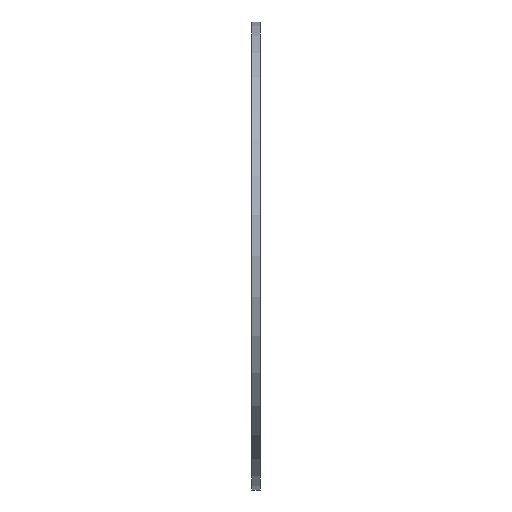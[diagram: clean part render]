
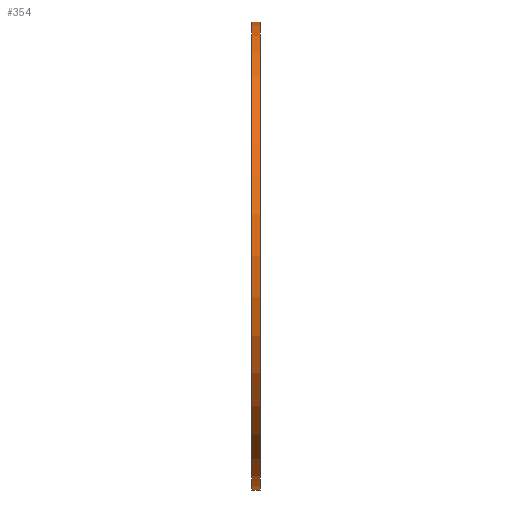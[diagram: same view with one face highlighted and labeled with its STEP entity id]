
A CAD part, left-side view. The second image highlights one B-rep face of the part: STEP entity #354.
In plain terms, the highlighted cylindrical face has radius 204.923 mm (diameter 409.847 mm), a partial arc.
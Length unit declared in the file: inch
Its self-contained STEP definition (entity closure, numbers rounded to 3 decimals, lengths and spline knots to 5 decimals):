
#17 = VERTEX_POINT ( 'NONE', #257 ) ;
#36 = ORIENTED_EDGE ( 'NONE', *, *, #172, .T. ) ;
#48 = DIRECTION ( 'NONE',  ( 0., -1., 0. ) ) ;
#64 = LINE ( 'NONE', #747, #114 ) ;
#71 = DIRECTION ( 'NONE',  ( 0., -1., 0. ) ) ;
#86 = DIRECTION ( 'NONE',  ( 0., -1., 0. ) ) ;
#94 = DIRECTION ( 'NONE',  ( 0., 1., 0. ) ) ;
#114 = VECTOR ( 'NONE', #48, 39.37008 ) ;
#143 = CARTESIAN_POINT ( 'NONE',  ( 8.19856, 0.3, -8.18591 ) ) ;
#172 = EDGE_CURVE ( 'NONE', #348, #736, #586, .T. ) ;
#190 = CYLINDRICAL_SURFACE ( 'NONE', #253, 8.06785 ) ;
#195 = CARTESIAN_POINT ( 'NONE',  ( 8.19856, 0., -8.18591 ) ) ;
#213 = ORIENTED_EDGE ( 'NONE', *, *, #749, .F. ) ;
#226 = CIRCLE ( 'NONE', #392, 8.06785 ) ;
#232 = ORIENTED_EDGE ( 'NONE', *, *, #477, .F. ) ;
#245 = DIRECTION ( 'NONE',  ( 0., 0., 1. ) ) ;
#253 = AXIS2_PLACEMENT_3D ( 'NONE', #143, #86, #488 ) ;
#257 = CARTESIAN_POINT ( 'NONE',  ( 8.19856, 0.3, -0.11806 ) ) ;
#259 = CARTESIAN_POINT ( 'NONE',  ( 8.19856, 0., -16.25375 ) ) ;
#271 = LINE ( 'NONE', #412, #502 ) ;
#315 = ORIENTED_EDGE ( 'NONE', *, *, #638, .T. ) ;
#324 = FACE_OUTER_BOUND ( 'NONE', #527, .T. ) ;
#346 = CARTESIAN_POINT ( 'NONE',  ( 8.19856, 0., -0.11806 ) ) ;
#348 = VERTEX_POINT ( 'NONE', #259 ) ;
#354 = ADVANCED_FACE ( 'NONE', ( #324 ), #190, .T. ) ;
#386 = VERTEX_POINT ( 'NONE', #723 ) ;
#392 = AXIS2_PLACEMENT_3D ( 'NONE', #439, #94, #497 ) ;
#412 = CARTESIAN_POINT ( 'NONE',  ( 8.19856, 0.3, -0.11806 ) ) ;
#439 = CARTESIAN_POINT ( 'NONE',  ( 8.19856, 0.3, -8.18591 ) ) ;
#477 = EDGE_CURVE ( 'NONE', #17, #736, #271, .T. ) ;
#488 = DIRECTION ( 'NONE',  ( 0., 0., -1. ) ) ;
#497 = DIRECTION ( 'NONE',  ( 0., 0., 1. ) ) ;
#502 = VECTOR ( 'NONE', #71, 39.37008 ) ;
#527 = EDGE_LOOP ( 'NONE', ( #232, #213, #315, #36 ) ) ;
#576 = AXIS2_PLACEMENT_3D ( 'NONE', #195, #594, #245 ) ;
#586 = CIRCLE ( 'NONE', #576, 8.06785 ) ;
#594 = DIRECTION ( 'NONE',  ( 0., 1., 0. ) ) ;
#638 = EDGE_CURVE ( 'NONE', #386, #348, #64, .T. ) ;
#723 = CARTESIAN_POINT ( 'NONE',  ( 8.19856, 0.3, -16.25375 ) ) ;
#736 = VERTEX_POINT ( 'NONE', #346 ) ;
#747 = CARTESIAN_POINT ( 'NONE',  ( 8.19856, 0.3, -16.25375 ) ) ;
#749 = EDGE_CURVE ( 'NONE', #386, #17, #226, .T. ) ;
